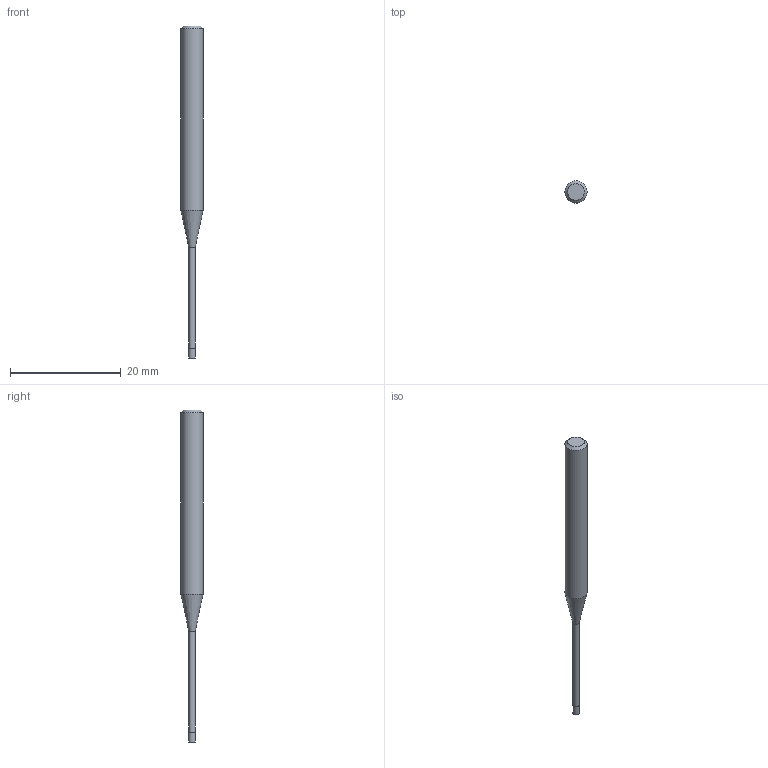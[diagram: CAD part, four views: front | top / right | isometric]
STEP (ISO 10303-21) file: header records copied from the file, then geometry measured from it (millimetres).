
FILE_DESCRIPTION((''),'2;1');
FILE_NAME('C:\Users\nsx150\AppData\Local\Temp\Mastercam 2021\17T8Q8S9EB\TEMP.step','2021-04-21T14:26:19',(''),(''),'STEP Write','Mastercam 2021 ... CNC Software, Inc.','');
FILE_SCHEMA(('AUTOMOTIVE_DESIGN'));
Length unit declared in the file: millimetre
Products named in the file (1): None
Bounding box: 4 x 4 x 60 mm (x, y, z)
Volume: 476.4 mm3; surface area: 558.3 mm2
Topology: 2 solids, 2 shells, 9 faces, 12 edges, 7 vertices
Faces by surface type: plane 4, cylinder 3, cone 2
Full cylindrical faces by diameter (mm): 1.15 x1, 1.2 x1, 4 x1
Entity records: 211 total; most frequent: DIRECTION 36, CARTESIAN_POINT 25, AXIS2_PLACEMENT_3D 18, ORIENTED_EDGE 14, EDGE_LOOP 14, STYLED_ITEM 12, ADVANCED_FACE 9, FACE_BOUND 8
